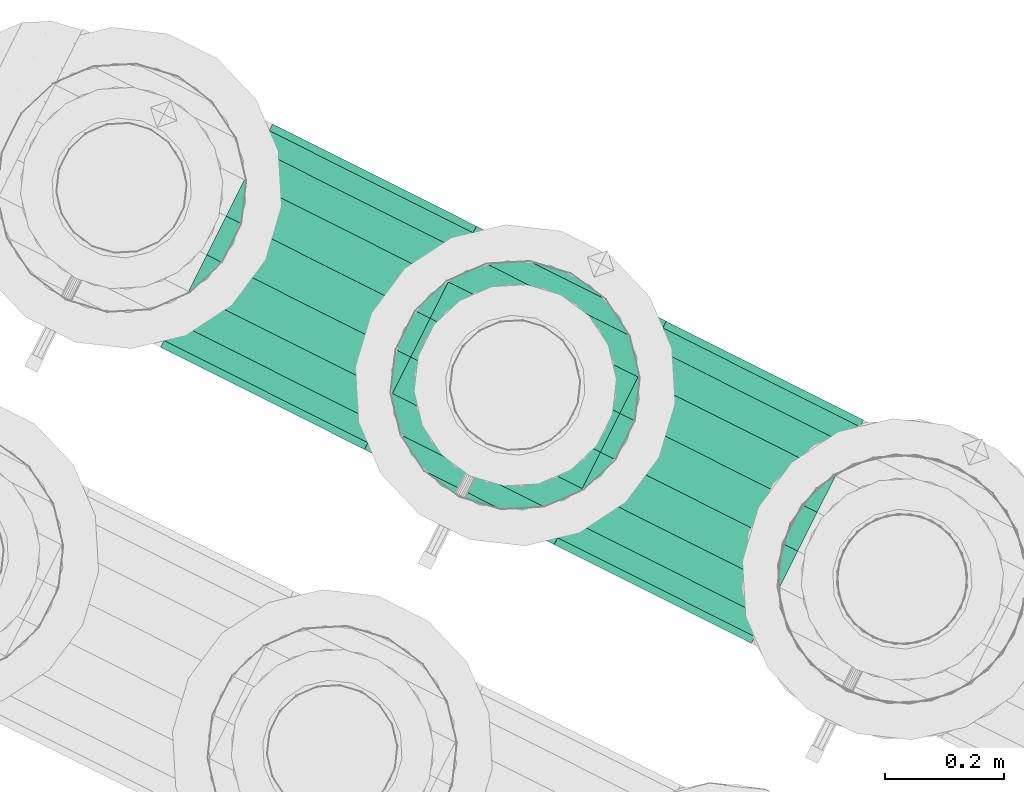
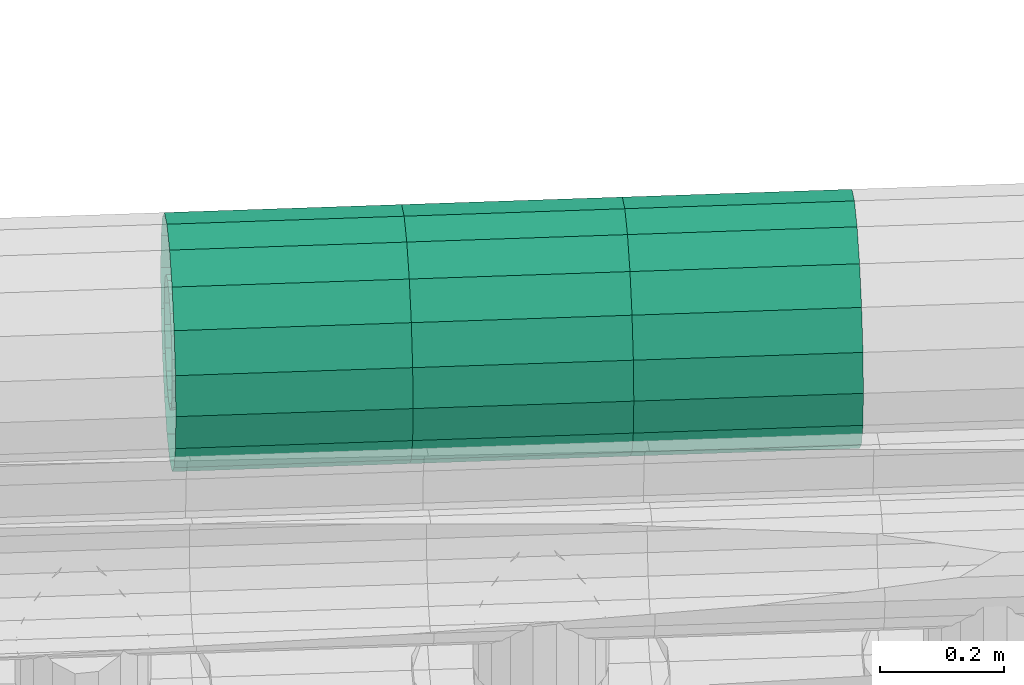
# One storey, part 90 of 152: 2 flow segments, 1 flow fitting.
"""IFC2X3 building model written with IfcOpenShell, lengths in metres."""

import ifcopenshell
import ifcopenshell.guid

model = None  # the IFC model being written
_history = None  # IfcOwnerHistory: only IFC2X3 demands one
_inside = {}  # id of a spatial element -> (the spatial element, [elements in it])
_under = {}  # id of a project, library or spatial element -> (it, [spatial elements below it])
_declared = {}  # id of a project -> (the project, [libraries it declares])
_typed = {}  # id of a type object -> (the type object, [elements of that type])
_made_of = {}  # id of a material, layer set ... -> (it, [elements and type objects made of it])


def new_model(schema):
    """Start an empty IFC model of exactly this schema.

    Asked for "IFC4X3", IfcOpenShell would pick the latest addendum, in which some entities
    have other attributes; the version numbers below select the first issue.
    IFC2X3 requires an IfcOwnerHistory on every rooted entity: one is made here for all.
    """
    global model, _history
    if schema == "IFC4X3":
        model = ifcopenshell.file(schema_version=(4, 3, 0, 0))
    else:
        model = ifcopenshell.file(schema=schema)
    _inside.clear()
    _under.clear()
    _declared.clear()
    _typed.clear()
    _made_of.clear()
    _history = None
    if model.schema == "IFC2X3":
        org = make("IfcOrganization", Name="unknown")
        user = make(
            "IfcPersonAndOrganization",
            ThePerson=make("IfcPerson", FamilyName="unknown"),
            TheOrganization=org,
        )
        app = make(
            "IfcApplication",
            ApplicationDeveloper=org,
            Version="unknown",
            ApplicationFullName="unknown",
            ApplicationIdentifier="unknown",
        )
        _history = make(
            "IfcOwnerHistory",
            OwningUser=user,
            OwningApplication=app,
            ChangeAction="ADDED",
            CreationDate=0,
        )
    return model


def make(cls, **values):
    """One entity of the class cls with the attributes given. An attribute that is None is left unset."""
    return model.create_entity(
        cls, **{name: value for name, value in values.items() if value is not None}
    )


def rooted(cls, **values):
    """An entity with a GlobalId (a new one), such as an element, a storey or a relation."""
    return make(cls, GlobalId=ifcopenshell.guid.new(), OwnerHistory=_history, **values)


def si_unit(unit_type, name, prefix=None):
    """IfcSIUnit, for example si_unit("LENGTHUNIT", "METRE", prefix="MILLI")."""
    return make("IfcSIUnit", UnitType=unit_type, Prefix=prefix, Name=name)


def derived_unit(unit_type, elements):
    """IfcDerivedUnit: a product of units, each with its exponent."""
    return make(
        "IfcDerivedUnit",
        Elements=[
            make("IfcDerivedUnitElement", Unit=unit, Exponent=power)
            for unit, power in elements
        ],
        UnitType=unit_type,
    )


def assignment(units):
    """IfcUnitAssignment: the units of a project."""
    return None if units is None else make("IfcUnitAssignment", Units=units)


def point(xyz):
    """IfcCartesianPoint."""
    return None if xyz is None else make("IfcCartesianPoint", Coordinates=xyz)


def direction(xyz):
    """IfcDirection."""
    return None if xyz is None else make("IfcDirection", DirectionRatios=xyz)


def frame(location, z_axis=None, x_axis=None):
    """IfcAxis2Placement3D, a coordinate frame: its origin and axes. An axis left out is left unset."""
    return make(
        "IfcAxis2Placement3D",
        Location=point(location),
        Axis=direction(z_axis),
        RefDirection=direction(x_axis),
    )


def origin():
    """The frame at (0, 0, 0) with its axes left unset."""
    return frame((0.0, 0.0, 0.0))


def place(relative_to, where):
    """IfcLocalPlacement: puts the frame where relative to a parent placement (None: the world)."""
    return make(
        "IfcLocalPlacement", PlacementRelTo=relative_to, RelativePlacement=where
    )


def context(
    kind, dimensions, precision=None, world=None, true_north=None, identifier=None
):
    """IfcGeometricRepresentationContext, for example the 3D "Model" context."""
    return make(
        "IfcGeometricRepresentationContext",
        ContextIdentifier=identifier,
        ContextType=kind,
        CoordinateSpaceDimension=dimensions,
        Precision=precision,
        WorldCoordinateSystem=world,
        TrueNorth=true_north,
    )


def subcontext(parent, identifier, kind, view, scale=None):
    """IfcGeometricRepresentationSubContext, for example "Body" below "Model"."""
    return make(
        "IfcGeometricRepresentationSubContext",
        ContextIdentifier=identifier,
        ContextType=kind,
        ParentContext=parent,
        TargetScale=scale,
        TargetView=view,
    )


def project(units=None, contexts=None):
    """IfcProject with its units and contexts."""
    return rooted(
        "IfcProject",
        Name="project",
        RepresentationContexts=contexts,
        UnitsInContext=assignment(units),
    )


def spatial(cls, under=None, at=None, **own):
    """A site, building, storey or space (cls), placed at a placement, below another one or the project."""
    s = rooted(cls, ObjectPlacement=at, **own)
    if under is not None:
        _under.setdefault(under.id(), (under, []))[1].append(s)
    return s


def faces_of(points, faces, orient=None, outer=None):
    """IfcFace entities. A face is a list of loops; a loop is a list of indices into points, from 0.

    orient and outer hold one flag for each loop. By default every Orientation is true, the
    first loop of a face is its IfcFaceOuterBound and the others are IfcFaceBound.
    """
    made = []
    for i, loops in enumerate(faces):
        bounds = []
        for j, loop in enumerate(loops):
            is_outer = j == 0 if outer is None else outer[i][j]
            bounds.append(
                make(
                    "IfcFaceOuterBound" if is_outer else "IfcFaceBound",
                    Bound=make("IfcPolyLoop", Polygon=[points[k] for k in loop]),
                    Orientation=True if orient is None else orient[i][j],
                )
            )
        made.append(make("IfcFace", Bounds=bounds))
    return made


def face_set(faces, orient=None, outer=None):
    """The faces of one IfcConnectedFaceSet. surface_model builds it on its shared points."""
    return ("IfcConnectedFaceSet", faces, orient, outer)


def surface_model(cls, points, shells):
    """IfcFaceBasedSurfaceModel or IfcShellBasedSurfaceModel (cls): surfaces that need not close."""
    shared = [point(p) for p in points]
    made = [make(c, CfsFaces=faces_of(shared, fs, o, b)) for c, fs, o, b in shells]
    if cls == "IfcFaceBasedSurfaceModel":
        return make(cls, FbsmFaces=made)
    return make(cls, SbsmBoundary=made)


def shape(context_of_items, identifier, shape_type, items):
    """IfcShapeRepresentation: the items that make up one representation, for example the "Body"."""
    return make(
        "IfcShapeRepresentation",
        ContextOfItems=context_of_items,
        RepresentationIdentifier=identifier,
        RepresentationType=shape_type,
        Items=items,
    )


def source(mapping_origin, context_of_items, identifier, shape_type, items):
    """IfcRepresentationMap: a shape defined once, which mapped items show again and again."""
    return make(
        "IfcRepresentationMap",
        MappingOrigin=mapping_origin,
        MappedRepresentation=shape(context_of_items, identifier, shape_type, items),
    )


def transform(
    local_origin,
    x_axis=None,
    y_axis=None,
    z_axis=None,
    scale=None,
    scale2=None,
    scale3=None,
    uniform=True,
):
    """IfcCartesianTransformationOperator3D, or its non-uniform kind. x_axis, y_axis, z_axis: its Axis1, 2, 3."""
    if uniform:
        return make(
            "IfcCartesianTransformationOperator3D",
            Axis1=direction(x_axis),
            Axis2=direction(y_axis),
            LocalOrigin=point(local_origin),
            Scale=scale,
            Axis3=direction(z_axis),
        )
    return make(
        "IfcCartesianTransformationOperator3DnonUniform",
        Axis1=direction(x_axis),
        Axis2=direction(y_axis),
        LocalOrigin=point(local_origin),
        Scale=scale,
        Axis3=direction(z_axis),
        Scale2=scale2,
        Scale3=scale3,
    )


def mapped(mapping_source, mapping_target):
    """IfcMappedItem: shows the shape of a source again, moved by a transform."""
    return make(
        "IfcMappedItem", MappingSource=mapping_source, MappingTarget=mapping_target
    )


def material(Name=None, Category=None):
    """IfcMaterial."""
    return make("IfcMaterial", Name=Name, Category=Category)


def made_of(thing, what):
    """Note that an element or type object is made of a material, layer set ...; save() writes the relation."""
    if what is not None:
        _made_of.setdefault(what.id(), (what, []))[1].append(thing)
    return thing


def type_object(cls, material=None, **own):
    """A type object (cls), such as IfcWallType, which elements share."""
    return made_of(rooted(cls, **own), material)


def type_shapes(of_type, sources):
    """Give a type object the sources (RepresentationMaps) that its elements show as mapped items."""
    of_type.RepresentationMaps = sources


def element(
    cls,
    number,
    at=None,
    inside=None,
    cuts=None,
    type_object=None,
    material=None,
    context=None,
    identifier="Body",
    shape_type=None,
    held_by="IfcProductDefinitionShape",
    body=None,
    shapes=None,
    **own,
):
    """One element of the class cls, such as IfcWall. Its Tag is "e" and its number.

    at: its placement. inside: the storey or other place that contains it. cuts: it is an
    opening in that element (IfcRelVoidsElement). A single representation is given by context,
    identifier, shape_type and body (its items); several are given by shapes. held_by: the class
    of the entity that holds the representations. save() writes the other relations.
    """
    e = rooted(cls, Tag="e%d" % number, ObjectPlacement=at, **own)
    if body is not None:
        shapes = [shape(context, identifier, shape_type, body)]
    if shapes is not None:
        e.Representation = make(held_by, Representations=shapes)
    if inside is not None:
        _inside.setdefault(inside.id(), (inside, []))[1].append(e)
    if cuts is not None:
        rooted(
            "IfcRelVoidsElement", RelatingBuildingElement=cuts, RelatedOpeningElement=e
        )
    if type_object is not None:
        _typed.setdefault(type_object.id(), (type_object, []))[1].append(e)
    return made_of(e, material)


def aggregate(whole, parts):
    """IfcRelAggregates: a whole, such as a stair, and the parts it consists of."""
    return rooted("IfcRelAggregates", RelatingObject=whole, RelatedObjects=parts)


def save(model, path):
    """Write the relations noted so far, then the file.

    IfcRelAggregates (storeys below a building ...), IfcRelContainedInSpatialStructure (elements
    in a storey), IfcRelDefinesByType, IfcRelAssociatesMaterial and IfcRelDeclares: one each for
    every whole, place, type object, material and project.
    """
    for whole, parts in _under.values():
        aggregate(whole, parts)
    for where, things in _inside.values():
        rooted(
            "IfcRelContainedInSpatialStructure",
            RelatedElements=things,
            RelatingStructure=where,
        )
    for kind, things in _typed.values():
        rooted("IfcRelDefinesByType", RelatedObjects=things, RelatingType=kind)
    for what, things in _made_of.values():
        rooted("IfcRelAssociatesMaterial", RelatedObjects=things, RelatingMaterial=what)
    for by, libraries in _declared.values():
        rooted("IfcRelDeclares", RelatingContext=by, RelatedDefinitions=libraries)
    model.write(path)


model = new_model("IFC2X3")

# Units and contexts
model_context = context("Model", 3, precision=5.2338327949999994e-05, world=origin(), true_north=direction((0.0, 1.0)))
body_context = subcontext(model_context, "Body", "Model", "MODEL_VIEW")
ifc_project = project(units=[si_unit("LENGTHUNIT", "METRE"), si_unit("AREAUNIT", "SQUARE_METRE"), si_unit("VOLUMEUNIT", "CUBIC_METRE"), si_unit("MASSUNIT", "GRAM", prefix="KILO"), si_unit("PLANEANGLEUNIT", "RADIAN"), derived_unit("THERMALTRANSMITTANCEUNIT", [(si_unit("MASSUNIT", "GRAM", prefix="KILO"), 1), (si_unit("THERMODYNAMICTEMPERATUREUNIT", "KELVIN"), -1), (si_unit("TIMEUNIT", "SECOND"), -3)])], contexts=[model_context])

# Site, building, storey
site_placement = place(None, frame((0.0, 0.0, 0.0), z_axis=(0.0, 0.0, 1.0), x_axis=(0.8939966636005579, -0.4480736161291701, 0.0)))
site = spatial("IfcSite", under=ifc_project, at=site_placement, Name="Default", CompositionType="ELEMENT")
building_placement = place(site_placement, origin())
building = spatial("IfcBuilding", under=site, at=building_placement, CompositionType="ELEMENT")
storey_placement = place(building_placement, frame((0.0, 0.0, 2.7499999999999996)))
storey = spatial("IfcBuildingStorey", under=building, at=storey_placement, Name="1. Obergeschoss", CompositionType="ELEMENT", Elevation=2.7499999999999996)

# Flow fitting
ifc_material = material(Name="IfcSurfaceStyle #1741")
distribution_element_type_1 = type_object("IfcDistributionElementType", Name="Abzweigstück 226729:Abzweigstück 226729", material=ifc_material)
shared_shape_1 = source(origin(), body_context, "Body", "SurfaceModel", [
    surface_model("IfcFaceBasedSurfaceModel", [(6.0394190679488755, 7.902658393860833, 5.553028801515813), (6.0394190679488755, 7.909265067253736, 5.59049710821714), (5.683419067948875, 7.909265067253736, 5.59049710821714), (5.683419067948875, 7.902658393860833, 5.553028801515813), (6.0394190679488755, 7.928288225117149, 5.623446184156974), (5.683419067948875, 7.928288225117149, 5.623446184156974), (6.0394190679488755, 7.957433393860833, 5.6479018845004), (5.683419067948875, 7.957433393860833, 5.6479018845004), (6.0394190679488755, 7.9931852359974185, 5.660914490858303), (5.683419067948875, 7.9931852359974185, 5.660914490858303), (6.0394190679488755, 8.031231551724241, 5.660914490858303), (5.683419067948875, 8.031231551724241, 5.660914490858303), (6.0394190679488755, 8.066983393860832, 5.647901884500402), (5.683419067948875, 8.066983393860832, 5.647901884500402), (6.0394190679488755, 8.096128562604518, 5.623446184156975), (5.683419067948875, 8.096128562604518, 5.623446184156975), (6.0394190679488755, 8.115151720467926, 5.590497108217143), (5.683419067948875, 8.115151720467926, 5.590497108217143), (6.0394190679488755, 8.121758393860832, 5.553028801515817), (5.683419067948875, 8.121758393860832, 5.553028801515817), (6.0394190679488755, 8.115151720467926, 5.51556049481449), (5.683419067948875, 8.115151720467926, 5.51556049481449), (6.0394190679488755, 8.096128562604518, 5.482611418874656), (5.683419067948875, 8.096128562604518, 5.482611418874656), (6.0394190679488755, 8.066983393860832, 5.458155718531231), (5.683419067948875, 8.066983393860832, 5.458155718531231), (6.0394190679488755, 8.031231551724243, 5.445143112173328), (5.683419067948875, 8.031231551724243, 5.445143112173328), (6.0394190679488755, 7.993185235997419, 5.445143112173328), (5.683419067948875, 7.993185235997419, 5.445143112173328), (6.0394190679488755, 7.957433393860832, 5.45815571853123), (5.683419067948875, 7.957433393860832, 5.45815571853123), (6.0394190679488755, 7.928288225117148, 5.4826114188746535), (5.683419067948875, 7.928288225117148, 5.4826114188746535), (6.0394190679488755, 7.909265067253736, 5.515560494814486), (5.683419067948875, 7.909265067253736, 5.515560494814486), (6.0394190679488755, 7.802658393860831, 5.553028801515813), (6.0394190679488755, 7.8152958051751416, 5.624699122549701), (5.683419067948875, 7.815295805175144, 5.624699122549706), (5.683419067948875, 7.802658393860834, 5.553028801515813), (6.0394190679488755, 7.851683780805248, 5.687724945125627), (5.683419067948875, 7.851683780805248, 5.687724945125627), (6.0394190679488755, 7.907433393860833, 5.7345044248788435), (5.683419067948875, 7.907433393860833, 5.7345044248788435), (6.0394190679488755, 7.975820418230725, 5.759395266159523), (5.683419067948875, 7.975820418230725, 5.759395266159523), (6.0394190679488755, 8.048596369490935, 5.759395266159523), (5.683419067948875, 8.048596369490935, 5.759395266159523), (6.0394190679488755, 8.11698339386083, 5.734504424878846), (5.683419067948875, 8.11698339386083, 5.734504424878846), (6.0394190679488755, 8.172733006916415, 5.687724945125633), (5.683419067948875, 8.172733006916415, 5.687724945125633), (6.0394190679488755, 8.20912098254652, 5.6246991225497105), (5.683419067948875, 8.20912098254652, 5.6246991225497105), (6.0394190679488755, 8.22175839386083, 5.553028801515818), (5.683419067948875, 8.22175839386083, 5.553028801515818), (6.0394190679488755, 8.209120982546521, 5.481358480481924), (5.683419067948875, 8.209120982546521, 5.481358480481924), (6.0394190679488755, 8.172733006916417, 5.418332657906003), (5.683419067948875, 8.172733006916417, 5.418332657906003), (6.0394190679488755, 8.116983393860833, 5.371553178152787), (5.683419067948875, 8.116983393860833, 5.371553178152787), (6.0394190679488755, 8.04859636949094, 5.3466623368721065), (5.683419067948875, 8.04859636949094, 5.3466623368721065), (6.0394190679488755, 7.97582041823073, 5.3466623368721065), (5.683419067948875, 7.97582041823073, 5.3466623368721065), (6.0394190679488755, 7.907433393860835, 5.3715531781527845), (5.683419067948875, 7.907433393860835, 5.3715531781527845), (6.0394190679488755, 7.851683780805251, 5.418332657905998), (5.683419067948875, 7.851683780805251, 5.418332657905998), (6.0394190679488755, 7.815295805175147, 5.481358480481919), (5.683419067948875, 7.815295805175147, 5.481358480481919), (5.751869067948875, 8.012208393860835, 5.443478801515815), (5.758475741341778, 8.049676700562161, 5.45008547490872), (5.758475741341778, 8.049676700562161, 5.375028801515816), (5.751869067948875, 8.012208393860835, 5.375028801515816), (5.777498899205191, 8.082625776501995, 5.469108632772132), (5.777498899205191, 8.082625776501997, 5.375028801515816), (5.806644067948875, 8.107081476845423, 5.498253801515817), (5.806644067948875, 8.107081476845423, 5.375028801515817), (5.8423959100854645, 8.120094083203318, 5.534005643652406), (5.8423959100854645, 8.12009408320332, 5.375028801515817), (5.880442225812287, 8.12009408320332, 5.534005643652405), (5.880442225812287, 8.120094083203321, 5.375028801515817), (5.916194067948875, 8.107081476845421, 5.498253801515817), (5.916194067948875, 8.10708147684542, 5.375028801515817), (5.9453392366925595, 8.082625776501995, 5.469108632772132), (5.9453392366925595, 8.082625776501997, 5.375028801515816), (5.964362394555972, 8.049676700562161, 5.45008547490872), (5.964362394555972, 8.049676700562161, 5.375028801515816), (5.970969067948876, 8.012208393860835, 5.443478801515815), (5.970969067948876, 8.012208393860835, 5.375028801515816), (5.964362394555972, 7.974740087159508, 5.450085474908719), (5.964362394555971, 7.974740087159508, 5.375028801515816), (5.9453392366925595, 7.941791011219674, 5.46910863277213), (5.9453392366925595, 7.941791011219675, 5.375028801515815), (5.916194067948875, 7.917335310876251, 5.498253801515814), (5.916194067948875, 7.917335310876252, 5.375028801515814), (5.8804422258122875, 7.904322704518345, 5.534005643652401), (5.8804422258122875, 7.904322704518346, 5.375028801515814), (5.842395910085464, 7.904322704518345, 5.534005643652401), (5.842395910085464, 7.904322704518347, 5.375028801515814), (5.806644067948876, 7.917335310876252, 5.498253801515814), (5.806644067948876, 7.917335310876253, 5.375028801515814), (5.777498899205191, 7.9417910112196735, 5.46910863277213), (5.777498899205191, 7.941791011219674, 5.375028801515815), (5.758475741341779, 7.974740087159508, 5.450085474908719), (5.758475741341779, 7.974740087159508, 5.375028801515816)], [face_set([[[0, 1, 2, 3]], [[1, 4, 5, 2]], [[4, 6, 7, 5]], [[6, 8, 9, 7]], [[8, 10, 11, 9]], [[10, 12, 13, 11]], [[12, 14, 15, 13]], [[14, 16, 17, 15]], [[16, 18, 19, 17]], [[18, 20, 21, 19]], [[20, 22, 23, 21]], [[22, 24, 25, 23]], [[24, 26, 27, 25]], [[26, 28, 29, 27]], [[28, 30, 31, 29]], [[30, 32, 33, 31]], [[32, 34, 35, 33]], [[34, 0, 3, 35]], [[36, 37, 38, 39]], [[37, 40, 41, 38]], [[40, 42, 43, 41]], [[42, 44, 45, 43]], [[44, 46, 47, 45]], [[46, 48, 49, 47]], [[48, 50, 51, 49]], [[50, 52, 53, 51]], [[52, 54, 55, 53]], [[54, 56, 57, 55]], [[56, 58, 59, 57]], [[58, 60, 61, 59]], [[60, 62, 63, 61]], [[62, 64, 65, 63]], [[64, 66, 67, 65]], [[66, 68, 69, 67]], [[68, 70, 71, 69]], [[70, 36, 39, 71]], [[72, 73, 74, 75]], [[73, 76, 77, 74]], [[76, 78, 79, 77]], [[78, 80, 81, 79]], [[80, 82, 83, 81]], [[82, 84, 85, 83]], [[84, 86, 87, 85]], [[86, 88, 89, 87]], [[88, 90, 91, 89]], [[90, 92, 93, 91]], [[92, 94, 95, 93]], [[94, 96, 97, 95]], [[96, 98, 99, 97]], [[98, 100, 101, 99]], [[100, 102, 103, 101]], [[102, 104, 105, 103]], [[104, 106, 107, 105]], [[106, 72, 75, 107]]])]),
])
type_shapes(distribution_element_type_1, [shared_shape_1])
flow_fitting_placement = place(storey_placement, frame((0.0, 0.0, -2.7499999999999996)))
element("IfcFlowFitting", 1, at=flow_fitting_placement, inside=storey, type_object=distribution_element_type_1, material=ifc_material, Name="Abzweigstück", ObjectType="Abzweigstück", context=body_context, shape_type="MappedRepresentation", body=[
    mapped(shared_shape_1, transform((0.0, 0.0, 0.0), scale=1.0)),
])

# Flow segments
distribution_element_type_2 = type_object("IfcDistributionElementType", Name="Stahlrohr nach DIN 2448 226752:Stahlrohr nach DIN 2448 226752", material=ifc_material)
shared_shape_2 = source(origin(), body_context, "Body", "SurfaceModel", [
    surface_model("IfcFaceBasedSurfaceModel", [(6.409814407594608, 7.902658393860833, 5.553028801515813), (6.409814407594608, 7.909265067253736, 5.59049710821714), (6.0394190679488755, 7.909265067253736, 5.59049710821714), (6.0394190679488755, 7.902658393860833, 5.553028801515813), (6.409814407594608, 7.928288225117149, 5.623446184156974), (6.0394190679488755, 7.928288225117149, 5.623446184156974), (6.409814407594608, 7.957433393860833, 5.6479018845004), (6.0394190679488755, 7.957433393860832, 5.647901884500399), (6.409814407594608, 7.9931852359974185, 5.660914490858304), (6.0394190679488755, 7.993185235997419, 5.660914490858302), (6.409814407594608, 8.031231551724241, 5.660914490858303), (6.0394190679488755, 8.031231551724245, 5.660914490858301), (6.409814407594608, 8.066983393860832, 5.6479018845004), (6.0394190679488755, 8.066983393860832, 5.6479018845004), (6.409814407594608, 8.096128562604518, 5.623446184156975), (6.0394190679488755, 8.096128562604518, 5.623446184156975), (6.409814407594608, 8.115151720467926, 5.590497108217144), (6.0394190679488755, 8.115151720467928, 5.590497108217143), (6.409814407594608, 8.121758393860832, 5.553028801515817), (6.0394190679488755, 8.121758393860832, 5.553028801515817), (6.409814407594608, 8.115151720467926, 5.51556049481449), (6.0394190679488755, 8.11515172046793, 5.515560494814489), (6.409814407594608, 8.096128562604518, 5.482611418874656), (6.0394190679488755, 8.096128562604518, 5.482611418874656), (6.409814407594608, 8.066983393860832, 5.458155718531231), (6.0394190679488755, 8.066983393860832, 5.4581557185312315), (6.409814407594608, 8.031231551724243, 5.4451431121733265), (6.0394190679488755, 8.031231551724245, 5.445143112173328), (6.409814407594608, 7.993185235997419, 5.445143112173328), (6.0394190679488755, 7.99318523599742, 5.445143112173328), (6.409814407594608, 7.957433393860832, 5.45815571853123), (6.0394190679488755, 7.957433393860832, 5.45815571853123), (6.409814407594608, 7.928288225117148, 5.4826114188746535), (6.0394190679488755, 7.928288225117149, 5.4826114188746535), (6.409814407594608, 7.909265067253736, 5.515560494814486), (6.0394190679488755, 7.909265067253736, 5.515560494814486), (6.409814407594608, 7.802658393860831, 5.553028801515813), (6.409814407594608, 7.8152958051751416, 5.624699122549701), (6.0394190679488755, 7.815295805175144, 5.624699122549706), (6.0394190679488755, 7.802658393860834, 5.553028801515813), (6.409814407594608, 7.8516837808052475, 5.687724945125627), (6.0394190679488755, 7.851683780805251, 5.687724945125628), (6.409814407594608, 7.907433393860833, 5.734504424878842), (6.0394190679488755, 7.907433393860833, 5.734504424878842), (6.409814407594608, 7.975820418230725, 5.759395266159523), (6.0394190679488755, 7.975820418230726, 5.759395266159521), (6.409814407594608, 8.048596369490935, 5.759395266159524), (6.0394190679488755, 8.048596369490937, 5.759395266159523), (6.409814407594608, 8.11698339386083, 5.734504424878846), (6.0394190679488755, 8.116983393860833, 5.7345044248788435), (6.409814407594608, 8.172733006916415, 5.687724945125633), (6.0394190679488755, 8.172733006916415, 5.687724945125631), (6.409814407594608, 8.209120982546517, 5.62469912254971), (6.0394190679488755, 8.20912098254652, 5.624699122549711), (6.409814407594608, 8.221758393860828, 5.553028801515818), (6.0394190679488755, 8.221758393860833, 5.553028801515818), (6.409814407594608, 8.209120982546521, 5.481358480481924), (6.0394190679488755, 8.209120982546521, 5.481358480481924), (6.409814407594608, 8.172733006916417, 5.418332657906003), (6.0394190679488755, 8.172733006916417, 5.418332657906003), (6.409814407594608, 8.116983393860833, 5.371553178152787), (6.0394190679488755, 8.116983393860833, 5.371553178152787), (6.409814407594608, 8.04859636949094, 5.3466623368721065), (6.0394190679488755, 8.048596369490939, 5.3466623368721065), (6.409814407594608, 7.97582041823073, 5.346662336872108), (6.0394190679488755, 7.975820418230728, 5.3466623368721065), (6.409814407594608, 7.907433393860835, 5.371553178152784), (6.0394190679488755, 7.907433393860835, 5.371553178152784), (6.409814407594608, 7.851683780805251, 5.418332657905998), (6.0394190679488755, 7.851683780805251, 5.418332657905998), (6.409814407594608, 7.815295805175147, 5.481358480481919), (6.0394190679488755, 7.815295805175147, 5.481358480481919)], [face_set([[[0, 1, 2, 3]], [[1, 4, 5, 2]], [[4, 6, 7, 5]], [[6, 8, 9, 7]], [[8, 10, 11, 9]], [[10, 12, 13, 11]], [[12, 14, 15, 13]], [[14, 16, 17, 15]], [[16, 18, 19, 17]], [[18, 20, 21, 19]], [[20, 22, 23, 21]], [[22, 24, 25, 23]], [[24, 26, 27, 25]], [[26, 28, 29, 27]], [[28, 30, 31, 29]], [[30, 32, 33, 31]], [[32, 34, 35, 33]], [[34, 0, 3, 35]], [[36, 37, 38, 39]], [[37, 40, 41, 38]], [[40, 42, 43, 41]], [[42, 44, 45, 43]], [[44, 46, 47, 45]], [[46, 48, 49, 47]], [[48, 50, 51, 49]], [[50, 52, 53, 51]], [[52, 54, 55, 53]], [[54, 56, 57, 55]], [[56, 58, 59, 57]], [[58, 60, 61, 59]], [[60, 62, 63, 61]], [[62, 64, 65, 63]], [[64, 66, 67, 65]], [[66, 68, 69, 67]], [[68, 70, 71, 69]], [[70, 36, 39, 71]]])]),
])
type_shapes(distribution_element_type_2, [shared_shape_2])
flow_segment_1_placement = place(storey_placement, frame((0.0, 0.0, -2.7499999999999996)))
element("IfcFlowSegment", 2, at=flow_segment_1_placement, inside=storey, type_object=distribution_element_type_2, material=ifc_material, Name="Stahlrohr nach DIN 2448", ObjectType="Stahlrohr nach DIN 2448", context=body_context, shape_type="MappedRepresentation", body=[
    mapped(shared_shape_2, transform((0.0, 0.0, 0.0), scale=1.0)),
])
distribution_element_type_3 = type_object("IfcDistributionElementType", Name="Stahlrohr nach DIN 2448 226798:Stahlrohr nach DIN 2448 226798", material=ifc_material)
shared_shape_3 = source(origin(), body_context, "Body", "SurfaceModel", [
    surface_model("IfcFaceBasedSurfaceModel", [(5.683419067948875, 7.902658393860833, 5.553028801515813), (5.683419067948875, 7.909265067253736, 5.59049710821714), (5.300766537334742, 7.909265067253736, 5.59049710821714), (5.300766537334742, 7.902658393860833, 5.553028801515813), (5.683419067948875, 7.928288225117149, 5.623446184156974), (5.300766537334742, 7.928288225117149, 5.623446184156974), (5.683419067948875, 7.957433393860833, 5.6479018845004), (5.300766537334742, 7.957433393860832, 5.647901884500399), (5.683419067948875, 7.9931852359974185, 5.660914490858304), (5.300766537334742, 7.993185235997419, 5.660914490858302), (5.683419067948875, 8.031231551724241, 5.660914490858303), (5.300766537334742, 8.031231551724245, 5.660914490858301), (5.683419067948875, 8.066983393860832, 5.6479018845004), (5.300766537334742, 8.066983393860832, 5.6479018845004), (5.683419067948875, 8.096128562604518, 5.623446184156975), (5.300766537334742, 8.096128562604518, 5.623446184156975), (5.683419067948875, 8.115151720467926, 5.590497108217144), (5.300766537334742, 8.115151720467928, 5.590497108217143), (5.683419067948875, 8.121758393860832, 5.553028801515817), (5.300766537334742, 8.121758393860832, 5.553028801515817), (5.683419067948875, 8.115151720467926, 5.51556049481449), (5.300766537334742, 8.11515172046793, 5.515560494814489), (5.683419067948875, 8.096128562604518, 5.482611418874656), (5.300766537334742, 8.096128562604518, 5.482611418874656), (5.683419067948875, 8.066983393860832, 5.458155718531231), (5.300766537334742, 8.066983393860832, 5.4581557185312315), (5.683419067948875, 8.031231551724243, 5.4451431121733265), (5.300766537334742, 8.031231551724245, 5.445143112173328), (5.683419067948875, 7.993185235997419, 5.445143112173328), (5.300766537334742, 7.99318523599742, 5.445143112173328), (5.683419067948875, 7.957433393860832, 5.45815571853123), (5.300766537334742, 7.957433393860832, 5.45815571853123), (5.683419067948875, 7.928288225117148, 5.4826114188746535), (5.300766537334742, 7.928288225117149, 5.4826114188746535), (5.683419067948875, 7.909265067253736, 5.515560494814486), (5.300766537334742, 7.909265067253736, 5.515560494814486), (5.683419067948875, 7.802658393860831, 5.553028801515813), (5.683419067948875, 7.8152958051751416, 5.624699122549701), (5.300766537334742, 7.815295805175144, 5.624699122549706), (5.300766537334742, 7.802658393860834, 5.553028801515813), (5.683419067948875, 7.8516837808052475, 5.687724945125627), (5.300766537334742, 7.851683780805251, 5.687724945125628), (5.683419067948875, 7.907433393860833, 5.734504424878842), (5.300766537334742, 7.907433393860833, 5.734504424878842), (5.683419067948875, 7.975820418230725, 5.759395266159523), (5.300766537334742, 7.975820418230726, 5.759395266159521), (5.683419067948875, 8.048596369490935, 5.759395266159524), (5.300766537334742, 8.048596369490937, 5.759395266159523), (5.683419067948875, 8.11698339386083, 5.734504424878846), (5.300766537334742, 8.116983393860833, 5.7345044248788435), (5.683419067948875, 8.172733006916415, 5.687724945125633), (5.300766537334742, 8.172733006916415, 5.687724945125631), (5.683419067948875, 8.209120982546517, 5.62469912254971), (5.300766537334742, 8.20912098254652, 5.624699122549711), (5.683419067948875, 8.221758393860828, 5.553028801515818), (5.300766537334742, 8.221758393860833, 5.553028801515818), (5.683419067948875, 8.209120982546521, 5.481358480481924), (5.300766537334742, 8.209120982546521, 5.481358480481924), (5.683419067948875, 8.172733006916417, 5.418332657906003), (5.300766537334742, 8.172733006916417, 5.418332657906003), (5.683419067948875, 8.116983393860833, 5.371553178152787), (5.300766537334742, 8.116983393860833, 5.371553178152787), (5.683419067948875, 8.04859636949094, 5.3466623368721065), (5.300766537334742, 8.048596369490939, 5.3466623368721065), (5.683419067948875, 7.97582041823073, 5.3466623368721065), (5.300766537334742, 7.975820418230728, 5.346662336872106), (5.683419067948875, 7.907433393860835, 5.371553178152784), (5.300766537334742, 7.907433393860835, 5.371553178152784), (5.683419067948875, 7.851683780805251, 5.418332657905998), (5.300766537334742, 7.851683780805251, 5.418332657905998), (5.683419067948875, 7.815295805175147, 5.481358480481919), (5.300766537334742, 7.815295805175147, 5.481358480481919)], [face_set([[[0, 1, 2, 3]], [[1, 4, 5, 2]], [[4, 6, 7, 5]], [[6, 8, 9, 7]], [[8, 10, 11, 9]], [[10, 12, 13, 11]], [[12, 14, 15, 13]], [[14, 16, 17, 15]], [[16, 18, 19, 17]], [[18, 20, 21, 19]], [[20, 22, 23, 21]], [[22, 24, 25, 23]], [[24, 26, 27, 25]], [[26, 28, 29, 27]], [[28, 30, 31, 29]], [[30, 32, 33, 31]], [[32, 34, 35, 33]], [[34, 0, 3, 35]], [[36, 37, 38, 39]], [[37, 40, 41, 38]], [[40, 42, 43, 41]], [[42, 44, 45, 43]], [[44, 46, 47, 45]], [[46, 48, 49, 47]], [[48, 50, 51, 49]], [[50, 52, 53, 51]], [[52, 54, 55, 53]], [[54, 56, 57, 55]], [[56, 58, 59, 57]], [[58, 60, 61, 59]], [[60, 62, 63, 61]], [[62, 64, 65, 63]], [[64, 66, 67, 65]], [[66, 68, 69, 67]], [[68, 70, 71, 69]], [[70, 36, 39, 71]]])]),
])
type_shapes(distribution_element_type_3, [shared_shape_3])
flow_segment_2_placement = place(storey_placement, frame((0.0, 0.0, -2.7499999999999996)))
element("IfcFlowSegment", 3, at=flow_segment_2_placement, inside=storey, type_object=distribution_element_type_3, material=ifc_material, Name="Stahlrohr nach DIN 2448", ObjectType="Stahlrohr nach DIN 2448", context=body_context, shape_type="MappedRepresentation", body=[
    mapped(shared_shape_3, transform((0.0, 0.0, 0.0), scale=1.0)),
])

save(model, "model.ifc")
